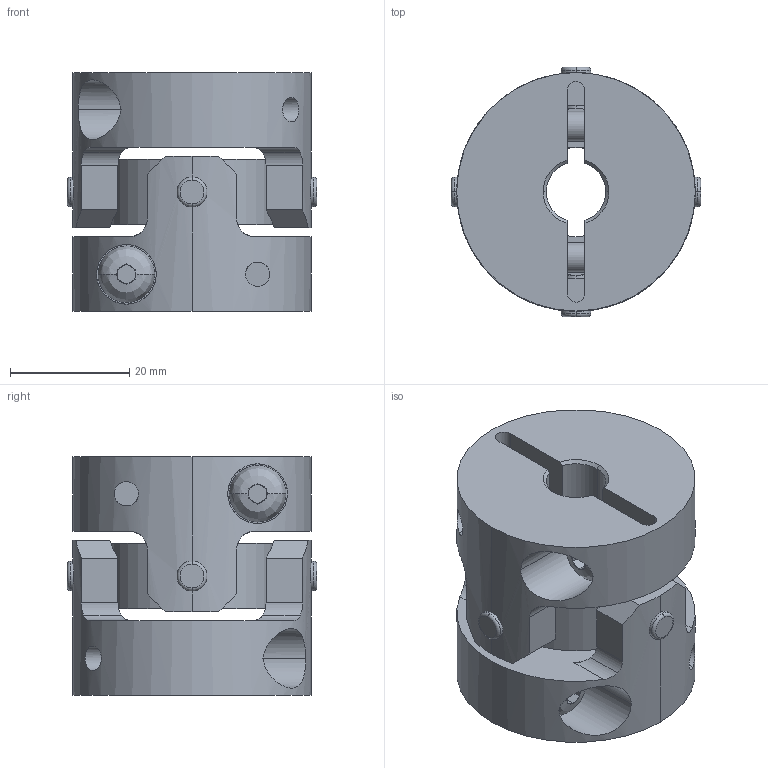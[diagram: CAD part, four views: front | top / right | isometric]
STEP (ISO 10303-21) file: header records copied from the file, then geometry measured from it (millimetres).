
FILE_DESCRIPTION((''),'2;1');
FILE_NAME('UA-40C-10×15.stp','2013-05-22T09:37:35',(''),(''),'AutoCAD STEP 2000i','AutoCAD 2000i',', , ');
FILE_SCHEMA(('CONFIG_CONTROL_DESIGN'));
Length unit declared in the file: millimetre
Products named in the file (6): UA-40C-8×8; 忣兜1; UA-4002-D08-1; BTN-M5; UA-4002-D08; UA40-SEN
Assembly tree (6 placements, depth 3):
  UA-40C-8×8
    忣兜1
    UA-4002-D08-1
      BTN-M5
    UA-4002-D08
      BTN-M5
    UA40-SEN
Bounding box: 41.81 x 41.81 x 40 mm (x, y, z)
Volume: 33619.9 mm3; surface area: 15546 mm2
Topology: 1 solids, 1 shells, 250 faces, 646 edges, 408 vertices
Faces by surface type: plane 122, cylinder 96, cone 16, bspline 8, torus 8
Entity records: 9627 total; most frequent: CARTESIAN_POINT 3371, ORIENTED_EDGE 1292, DIRECTION 1288, EDGE_CURVE 646, AXIS2_PLACEMENT_3D 497, VERTEX_POINT 408, VECTOR 294, LINE 294
